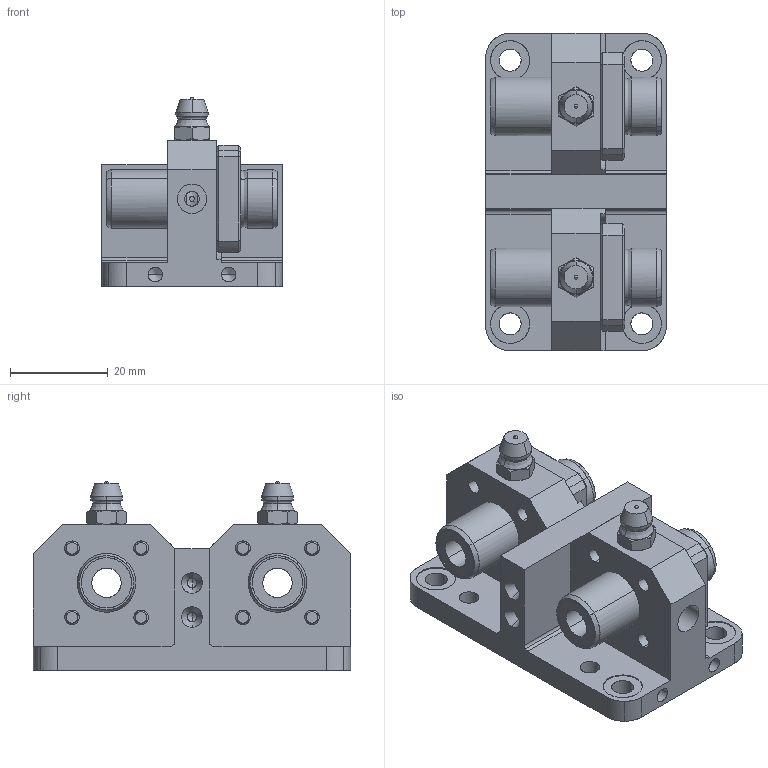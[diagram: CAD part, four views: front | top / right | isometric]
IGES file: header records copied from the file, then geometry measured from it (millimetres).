
Global section: file name: No Iges File Name specified; native system: AutoDesk Inventor R10; preprocessor: AutoDesk Inventor Iges Exporter R10; author: No Author specified; organization: No Organization specified; date: 20101227.092647; units: millimetre
Bounding box: 37 x 65 x 38.8 mm (x, y, z)
Surface area: 21116.2 mm2 (no closed solid volume)
Topology: 0 solids, 0 shells, 552 faces, 3745 edges, 3703 vertices
Faces by surface type: bspline 552
